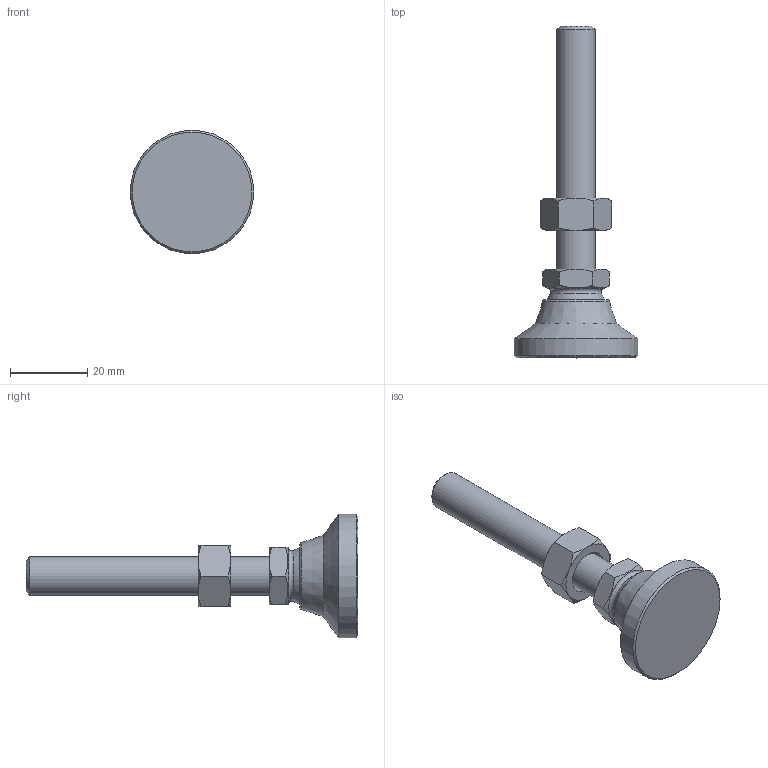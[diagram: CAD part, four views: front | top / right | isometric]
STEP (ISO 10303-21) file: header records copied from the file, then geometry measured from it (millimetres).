
FILE_DESCRIPTION( ( 'STEP AP214' ), ' ' );
FILE_NAME( 'O:/ganter_2015/teil_2/2_5/gn343_2/gn343_2_os/Levelling foot with threaded stud GN 343.2-32-M10-63-OS-(0).stp', '2015-10-26T09:07:00', ( '' ), ( '' ), ' ', 'PARTsolutions', ' ' );
FILE_SCHEMA( ( 'AUTOMOTIVE_DESIGN { 1 0 10303 214 1 1 1 1 }' ) );
Length unit declared in the file: millimetre
Products named in the file (4): Levelling foot with threaded stud GN 343.2-32-M10-63-OS-(0); _Levelling foot with threaded stud GN 343.2-32-M10-63-OS-(0)_foot; _Levelling foot with threaded stud GN 343.2-32-M10-63-OS-(0)_screw; _Stainless Steel-Levelling feet GN 343.2-32-M10-63-OS-(0)_nut
Assembly tree (3 placements, depth 2):
  Levelling foot with threaded stud GN 343.2-32-M10-63-OS-(0)
    _Levelling foot with threaded stud GN 343.2-32-M10-63-OS-(0)_foot
    _Levelling foot with threaded stud GN 343.2-32-M10-63-OS-(0)_screw
    _Stainless Steel-Levelling feet GN 343.2-32-M10-63-OS-(0)_nut
Bounding box: 32 x 86 x 32 mm (x, y, z)
Volume: 15667.8 mm3; surface area: 6802.5 mm2
Topology: 3 solids, 3 shells, 50 faces, 107 edges, 63 vertices
Faces by surface type: cone 25, plane 18, cylinder 3, torus 2, sphere 2
Full cylindrical faces by diameter (mm): 8.376 x1, 10 x1, 32 x1
Entity records: 1874 total; most frequent: CARTESIAN_POINT 468, DIRECTION 188, ORIENTED_EDGE 176, AXIS2_PLACEMENT_3D 88, EDGE_CURVE 88, EDGE_LOOP 66, VERTEX_POINT 60, FACE_OUTER_BOUND 55
